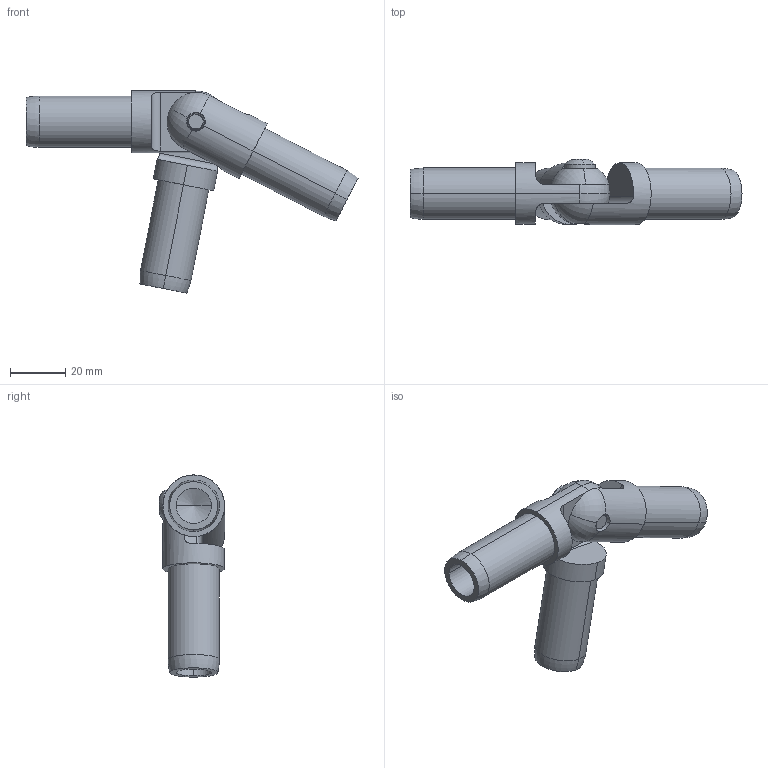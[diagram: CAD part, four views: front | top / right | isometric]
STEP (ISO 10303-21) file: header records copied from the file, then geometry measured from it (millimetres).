
FILE_DESCRIPTION (( 'STEP AP214' ), '1' );
FILE_NAME ('0.75 Inch In-Plane Adjustable Angle 3-Tube Joint Kit.STEP', '2014-01-09T15:36:51', ( 'ydmin' ), ( 'Microsoft' ), 'SwSTEP 2.0', 'SolidWorks 2013', '' );
FILE_SCHEMA (( 'AUTOMOTIVE_DESIGN' ));
Length unit declared in the file: inch
Products named in the file (1): 0.75 Inch In-Plane Adjustable Angle 3-Tube Joint Kit
Bounding box: 119.71 x 23.48 x 72.9 mm (x, y, z)
Volume: 32768.2 mm3; surface area: 19962.4 mm2
Topology: 5 solids, 5 shells, 228 faces, 493 edges, 274 vertices
Faces by surface type: cylinder 92, cone 81, plane 33, torus 12, bspline 8, sphere 2
Entity records: 12769 total; most frequent: CARTESIAN_POINT 4997, DIRECTION 981, ORIENTED_EDGE 970, EDGE_CURVE 485, AXIS2_PLACEMENT_3D 388, VERTEX_POINT 274, EDGE_LOOP 241, LENGTH_MEASURE_WITH_UNIT 235
